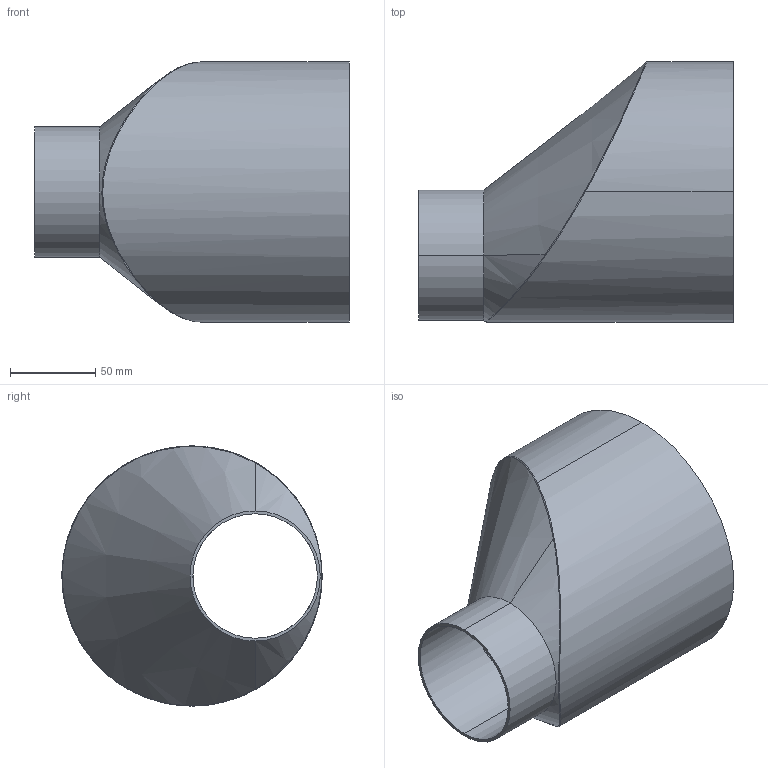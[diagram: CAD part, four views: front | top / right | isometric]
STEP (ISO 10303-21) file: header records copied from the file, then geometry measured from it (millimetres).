
FILE_DESCRIPTION (( 'STEP AP214' ), '1' );
FILE_NAME ('TE32SWW6L6.0x3.0-...STEP', '2016-06-01T08:32:57', ( 'eran' ), ( '' ), 'SwSTEP 2.0', 'SolidWorks 2016', '' );
FILE_SCHEMA (( 'AUTOMOTIVE_DESIGN' ));
Length unit declared in the file: millimetre
Products named in the file (1): TE32SWW6L6.0x3.0-..
Bounding box: 184.15 x 152.4 x 152.4 mm (x, y, z)
Volume: 801568.5 mm3; surface area: 137228.1 mm2
Topology: 1 solids, 1 shells, 26 faces, 61 edges, 35 vertices
Faces by surface type: cylinder 11, cone 7, bspline 4, torus 2, plane 2
Entity records: 1869 total; most frequent: CARTESIAN_POINT 1288, ORIENTED_EDGE 118, DIRECTION 107, EDGE_CURVE 59, AXIS2_PLACEMENT_3D 46, VERTEX_POINT 35, EDGE_LOOP 28, ADVANCED_FACE 26
